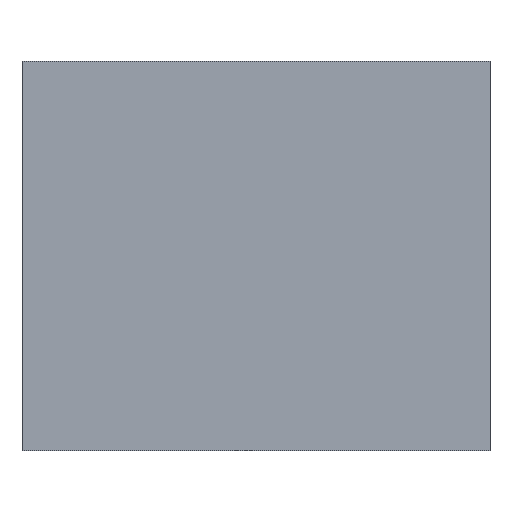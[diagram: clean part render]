
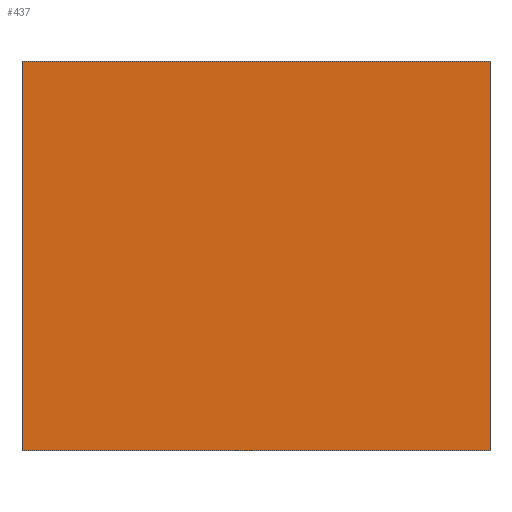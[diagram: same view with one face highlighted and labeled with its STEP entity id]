
A CAD part, front view. The second image highlights one B-rep face of the part: STEP entity #437.
In plain terms, the highlighted planar face has unit normal (0, -1, 0).
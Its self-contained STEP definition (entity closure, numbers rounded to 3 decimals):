
#185 = DIRECTION ( 'NONE',  ( 0., 0., -1. ) ) ;
#437 = ADVANCED_FACE ( 'NONE', ( #6125 ), #6170, .F. ) ;
#590 = LINE ( 'NONE', #3208, #1067 ) ;
#1067 = VECTOR ( 'NONE', #2603, 1000. ) ;
#1426 = CARTESIAN_POINT ( 'NONE',  ( -1.5, -0.75, -1.25 ) ) ;
#1555 = ORIENTED_EDGE ( 'NONE', *, *, #4645, .F. ) ;
#1811 = CARTESIAN_POINT ( 'NONE',  ( -1.5, -0.75, 1.25 ) ) ;
#1968 = VECTOR ( 'NONE', #3433, 1000. ) ;
#2143 = ORIENTED_EDGE ( 'NONE', *, *, #4048, .F. ) ;
#2181 = LINE ( 'NONE', #7433, #3953 ) ;
#2603 = DIRECTION ( 'NONE',  ( 0., 0., 1. ) ) ;
#2840 = CARTESIAN_POINT ( 'NONE',  ( 0., -0.75, 0. ) ) ;
#3208 = CARTESIAN_POINT ( 'NONE',  ( -1.5, -0.75, -1.25 ) ) ;
#3433 = DIRECTION ( 'NONE',  ( -1., 0., 0. ) ) ;
#3852 = VERTEX_POINT ( 'NONE', #6165 ) ;
#3953 = VECTOR ( 'NONE', #6067, 1000. ) ;
#4048 = EDGE_CURVE ( 'NONE', #5477, #4838, #590, .T. ) ;
#4645 = EDGE_CURVE ( 'NONE', #4838, #3852, #2181, .T. ) ;
#4838 = VERTEX_POINT ( 'NONE', #1811 ) ;
#5307 = LINE ( 'NONE', #6738, #5681 ) ;
#5447 = DIRECTION ( 'NONE',  ( 0., 1., 0. ) ) ;
#5477 = VERTEX_POINT ( 'NONE', #6725 ) ;
#5531 = EDGE_CURVE ( 'NONE', #8156, #5477, #7309, .T. ) ;
#5681 = VECTOR ( 'NONE', #185, 1000. ) ;
#6067 = DIRECTION ( 'NONE',  ( 1., 0., 0. ) ) ;
#6125 = FACE_OUTER_BOUND ( 'NONE', #6540, .T. ) ;
#6127 = CARTESIAN_POINT ( 'NONE',  ( 1.5, -0.75, -1.25 ) ) ;
#6165 = CARTESIAN_POINT ( 'NONE',  ( 1.5, -0.75, 1.25 ) ) ;
#6170 = PLANE ( 'NONE',  #7871 ) ;
#6540 = EDGE_LOOP ( 'NONE', ( #8062, #1555, #2143, #7469 ) ) ;
#6725 = CARTESIAN_POINT ( 'NONE',  ( -1.5, -0.75, -1.25 ) ) ;
#6738 = CARTESIAN_POINT ( 'NONE',  ( 1.5, -0.75, -1.25 ) ) ;
#6777 = DIRECTION ( 'NONE',  ( 0., 0., 1. ) ) ;
#7204 = EDGE_CURVE ( 'NONE', #3852, #8156, #5307, .T. ) ;
#7309 = LINE ( 'NONE', #1426, #1968 ) ;
#7433 = CARTESIAN_POINT ( 'NONE',  ( -1.5, -0.75, 1.25 ) ) ;
#7469 = ORIENTED_EDGE ( 'NONE', *, *, #5531, .F. ) ;
#7871 = AXIS2_PLACEMENT_3D ( 'NONE', #2840, #5447, #6777 ) ;
#8062 = ORIENTED_EDGE ( 'NONE', *, *, #7204, .F. ) ;
#8156 = VERTEX_POINT ( 'NONE', #6127 ) ;
